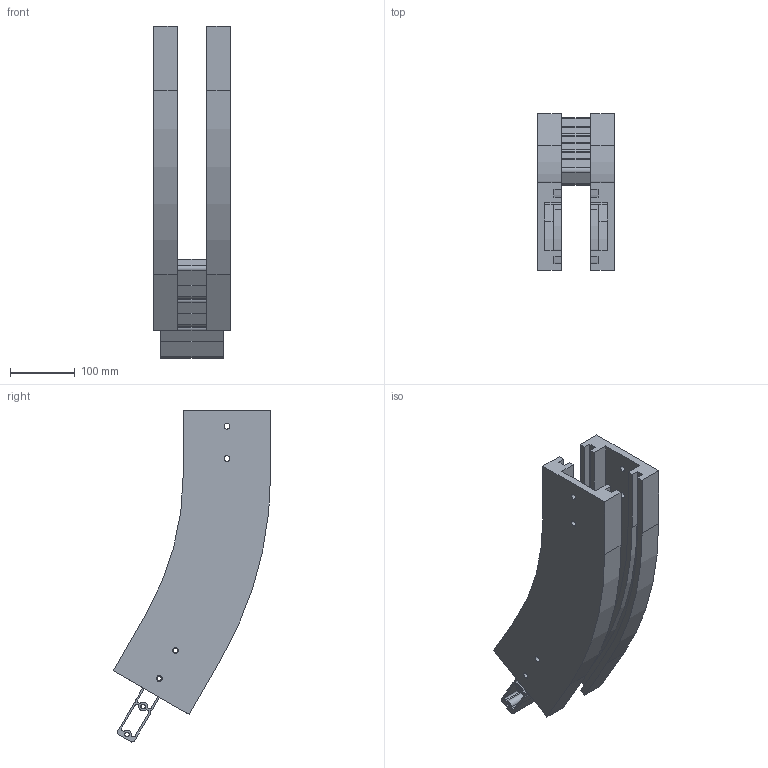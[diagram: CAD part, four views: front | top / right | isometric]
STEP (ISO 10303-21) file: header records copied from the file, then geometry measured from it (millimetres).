
FILE_DESCRIPTION (( 'STEP AP203' ), '1' );
FILE_NAME ('R3CV500-30.STEP', '2009-01-13T08:21:51', ( 'faber' ), ( '' ), 'SwSTEP 2.0', 'SolidWorks 2008', '' );
FILE_SCHEMA (( 'CONFIG_CONTROL_DESIGN' ));
Length unit declared in the file: millimetre
Products named in the file (1): R3CV500-30
Bounding box: 118 x 242.94 x 513.07 mm (x, y, z)
Surface area: 455636.1 mm2 (no closed solid volume)
Topology: 0 solids, 3 shells, 194 faces, 774 edges, 564 vertices
Faces by surface type: plane 101, cylinder 93
Entity records: 8289 total; most frequent: CARTESIAN_POINT 1533, DIRECTION 1440, ORIENTED_EDGE 1316, EDGE_CURVE 774, VERTEX_POINT 564, VECTOR 498, LINE 498, AXIS2_PLACEMENT_3D 471
